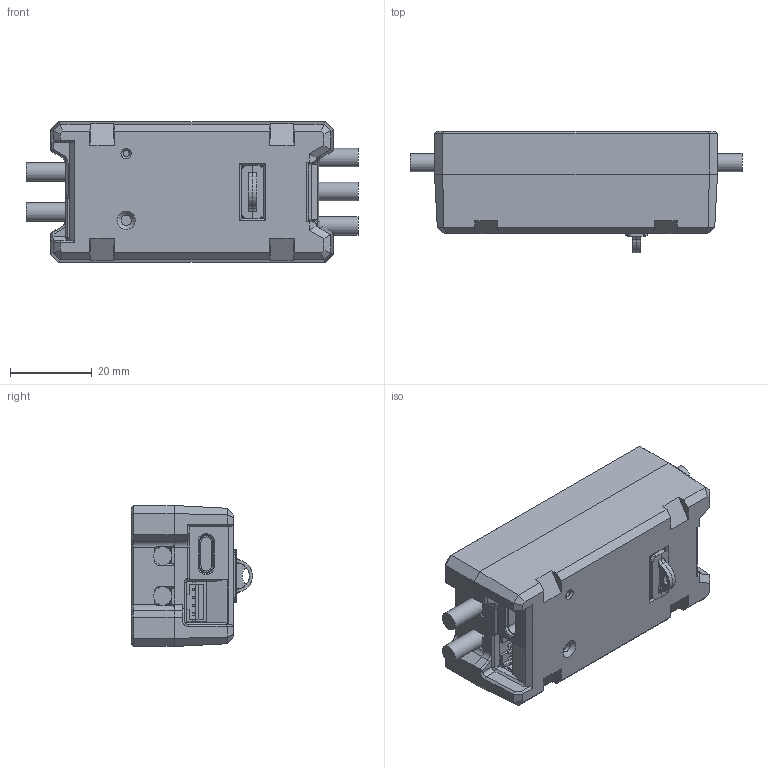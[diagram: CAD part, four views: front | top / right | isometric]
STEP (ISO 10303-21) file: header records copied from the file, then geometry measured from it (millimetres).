
FILE_DESCRIPTION(/* description */ (''),/* implementation_level */ '2;1');
FILE_NAME(/* name */ 'Spark Max Motor Controller .step',/* time_stamp */ '2022-12-29T16:04:11-08:00',/* author */ (''),/* organization */ (''),/* preprocessor_version */ 'ST-DEVELOPER v19.2',/* originating_system */ 'Autodesk Translation Framework v11.17.0.187',/* authorisation */ '');
FILE_SCHEMA (('AUTOMOTIVE_DESIGN { 1 0 10303 214 3 1 1 }'));
Length unit declared in the file: millimetre
Products named in the file (19): Spark Max Motor Controller; Component1; Component2; Component3; Component4; Component5; Component6; Component7; Component8; Component9; Component10; Component11; Component12; Component13; Component14; Component15; Component16; Component17; Component18
Assembly tree (18 placements, depth 2):
  Spark Max Motor Controller
    Component1
    Component2
    Component3
    Component4
    Component5
    Component6
    Component7
    Component8
    Component9
    Component10
    Component11
    Component12
    Component13
    Component14
    Component15
    Component16
    Component17
    Component18
Bounding box: 81.25 x 29.65 x 34.5 mm (x, y, z)
Volume: 26494.2 mm3; surface area: 26649 mm2
Topology: 18 solids, 18 shells, 1096 faces, 2807 edges, 1779 vertices
Faces by surface type: plane 856, cylinder 119, bspline 54, cone 50, torus 13, sphere 4
Full cylindrical faces by diameter (mm): 1.5 x1, 1.6 x5, 2 x4, 2.4 x4, 2.5 x1, 2.75 x3, 3 x1, 3.8 x4, 4.3 x4, 4.5 x7
Entity records: 36360 total; most frequent: CARTESIAN_POINT 9390, ORIENTED_EDGE 5590, DIRECTION 5211, EDGE_CURVE 2795, LINE 2253, VECTOR 2253, VERTEX_POINT 1779, AXIS2_PLACEMENT_3D 1479
